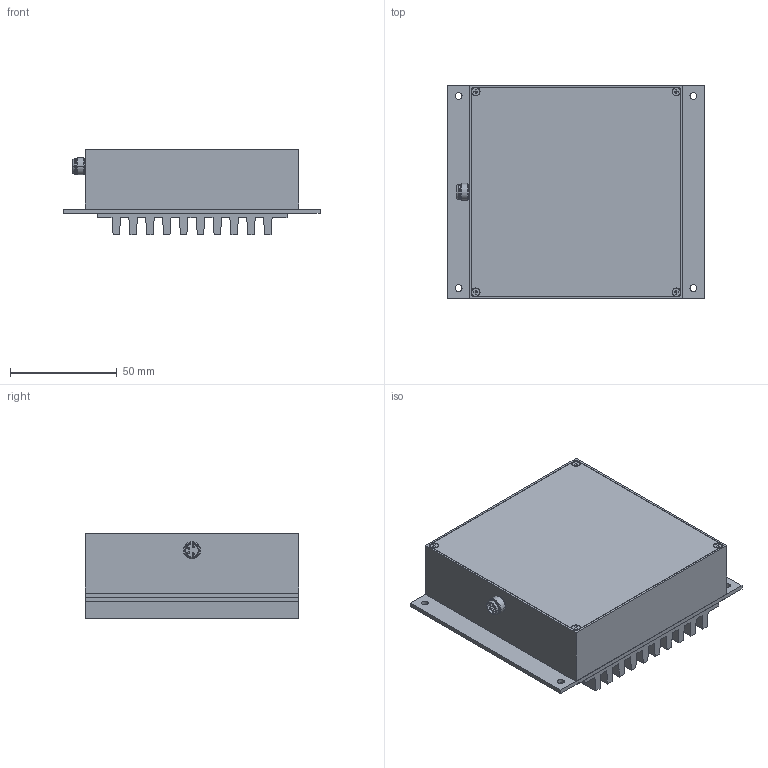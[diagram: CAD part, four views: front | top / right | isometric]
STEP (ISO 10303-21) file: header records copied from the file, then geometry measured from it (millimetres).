
FILE_DESCRIPTION(('STEP AP214'),'1');
FILE_NAME('MAGNUM-X.stp','2015-07-13T07:54:33',(' '),(' '),'Spatial InterOp 3D',' ',' ');
FILE_SCHEMA(('automotive_design'));
Length unit declared in the file: millimetre
Products named in the file (18): MAGNUM-X; Sidewalls; BottomPlate; din_en_iso_7046-2_m2x4_a2-70_z2; PCB_LEDs; sk182; Composant2; Lens; 52801; M8-Einbaustecker; Diffusor
Assembly tree (25 placements, depth 3):
  MAGNUM-X
    Sidewalls
    BottomPlate
    din_en_iso_7046-2_m2x4_a2-70_z2  x8
    PCB_LEDs
    sk182
    Composant2
      Lens
      Lens
      Lens
      Lens
      Lens
      Lens
      Lens
      Lens
    52801  x2
    M8-Einbaustecker
    Diffusor
Bounding box: 120 x 100 x 40 mm (x, y, z)
Volume: 214326.2 mm3; surface area: 169818.7 mm2
Topology: 32 solids, 32 shells, 1194 faces, 2919 edges, 1863 vertices
Faces by surface type: plane 624, cylinder 308, cone 202, torus 48, bspline 8, sphere 4
Entity records: 20733 total; most frequent: CARTESIAN_POINT 3855, DIRECTION 2699, ORIENTED_EDGE 2506, EDGE_CURVE 1253, AXIS2_PLACEMENT_3D 1007, VERTEX_POINT 805, LINE 685, VECTOR 685
